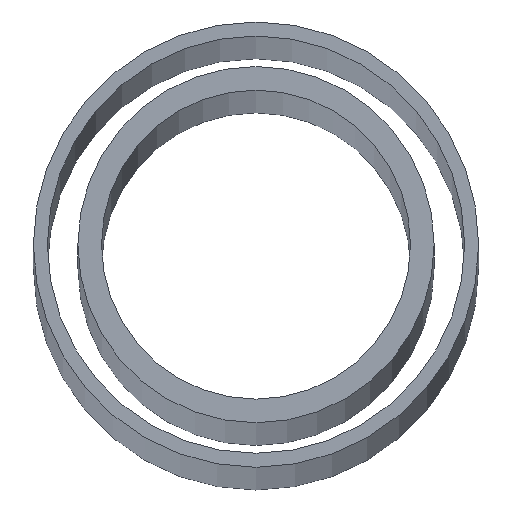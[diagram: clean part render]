
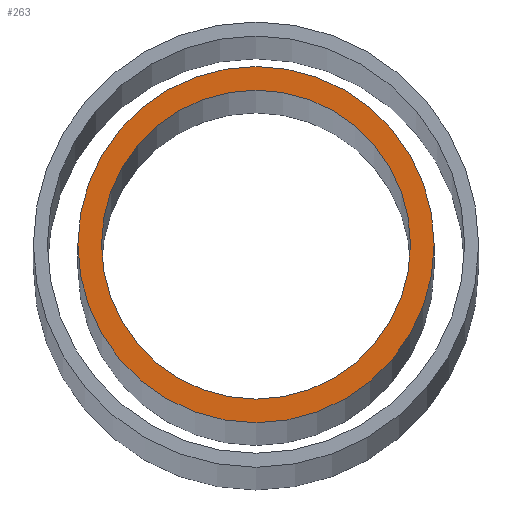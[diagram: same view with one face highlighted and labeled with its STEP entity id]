
A CAD part, top view. The second image highlights one B-rep face of the part: STEP entity #263.
In plain terms, the highlighted planar face has unit normal (0, 0, 1).
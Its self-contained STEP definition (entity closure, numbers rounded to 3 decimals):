
#9 = CARTESIAN_POINT ( 'NONE',  ( 69.4, 0., 5845. ) ) ;
#29 = ORIENTED_EDGE ( 'NONE', *, *, #391, .T. ) ;
#75 = DIRECTION ( 'NONE',  ( 1., 0., 0. ) ) ;
#76 = DIRECTION ( 'NONE',  ( 1., 0., 0. ) ) ;
#96 = EDGE_CURVE ( 'NONE', #134, #173, #359, .T. ) ;
#100 = DIRECTION ( 'NONE',  ( 0., 0., 1. ) ) ;
#108 = ORIENTED_EDGE ( 'NONE', *, *, #128, .F. ) ;
#116 = EDGE_LOOP ( 'NONE', ( #108, #252 ) ) ;
#128 = EDGE_CURVE ( 'NONE', #173, #134, #351, .T. ) ;
#134 = VERTEX_POINT ( 'NONE', #9 ) ;
#135 = FACE_OUTER_BOUND ( 'NONE', #233, .T. ) ;
#147 = DIRECTION ( 'NONE',  ( 1., 0., 0. ) ) ;
#149 = AXIS2_PLACEMENT_3D ( 'NONE', #281, #100, #76 ) ;
#159 = CIRCLE ( 'NONE', #149, 80. ) ;
#164 = CARTESIAN_POINT ( 'NONE',  ( 0., 0., 5845. ) ) ;
#168 = DIRECTION ( 'NONE',  ( 0., 0., 1. ) ) ;
#173 = VERTEX_POINT ( 'NONE', #239 ) ;
#174 = PLANE ( 'NONE',  #283 ) ;
#186 = ORIENTED_EDGE ( 'NONE', *, *, #300, .T. ) ;
#190 = DIRECTION ( 'NONE',  ( 1., 0., 0. ) ) ;
#193 = CARTESIAN_POINT ( 'NONE',  ( 0., 0., 5845. ) ) ;
#218 = DIRECTION ( 'NONE',  ( 0., 0., 1. ) ) ;
#222 = FACE_BOUND ( 'NONE', #116, .T. ) ;
#224 = VERTEX_POINT ( 'NONE', #374 ) ;
#231 = CARTESIAN_POINT ( 'NONE',  ( 0., 0., 5845. ) ) ;
#233 = EDGE_LOOP ( 'NONE', ( #186, #29 ) ) ;
#238 = CARTESIAN_POINT ( 'NONE',  ( 0., 0., 5845. ) ) ;
#239 = CARTESIAN_POINT ( 'NONE',  ( -69.4, 0., 5845. ) ) ;
#252 = ORIENTED_EDGE ( 'NONE', *, *, #96, .F. ) ;
#253 = AXIS2_PLACEMENT_3D ( 'NONE', #193, #218, #75 ) ;
#263 = ADVANCED_FACE ( 'NONE', ( #135, #222 ), #174, .T. ) ;
#281 = CARTESIAN_POINT ( 'NONE',  ( 0., 0., 5845. ) ) ;
#283 = AXIS2_PLACEMENT_3D ( 'NONE', #164, #168, #287 ) ;
#287 = DIRECTION ( 'NONE',  ( 1., 0., 0. ) ) ;
#292 = DIRECTION ( 'NONE',  ( 0., 0., 1. ) ) ;
#300 = EDGE_CURVE ( 'NONE', #363, #224, #159, .T. ) ;
#316 = AXIS2_PLACEMENT_3D ( 'NONE', #238, #343, #190 ) ;
#322 = CIRCLE ( 'NONE', #338, 80. ) ;
#338 = AXIS2_PLACEMENT_3D ( 'NONE', #231, #292, #147 ) ;
#343 = DIRECTION ( 'NONE',  ( 0., 0., 1. ) ) ;
#351 = CIRCLE ( 'NONE', #253, 69.4 ) ;
#359 = CIRCLE ( 'NONE', #316, 69.4 ) ;
#362 = CARTESIAN_POINT ( 'NONE',  ( -80., 0., 5845. ) ) ;
#363 = VERTEX_POINT ( 'NONE', #362 ) ;
#374 = CARTESIAN_POINT ( 'NONE',  ( 80., 0., 5845. ) ) ;
#391 = EDGE_CURVE ( 'NONE', #224, #363, #322, .T. ) ;
